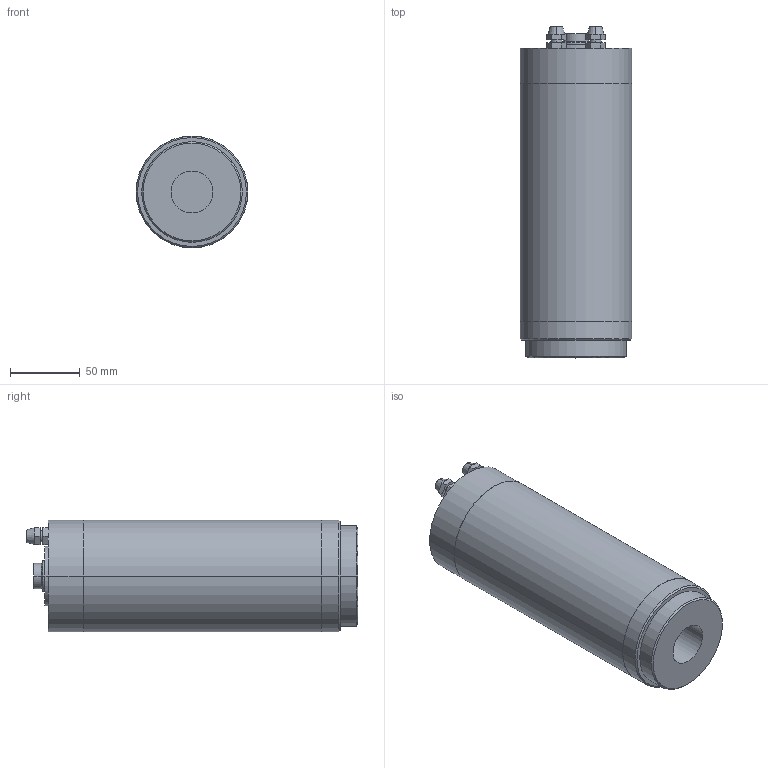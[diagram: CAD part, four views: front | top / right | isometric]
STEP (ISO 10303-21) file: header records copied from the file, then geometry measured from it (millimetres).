
FILE_DESCRIPTION (( 'STEP AP214' ), '1' );
FILE_NAME ('Pos.104 Spindel.STEP', '2017-03-12T10:05:14', ( 'C.Loibl@hotmail.com' ), ( '' ), 'SwSTEP 2.0', 'SolidWorks 2015', '' );
FILE_SCHEMA (( 'AUTOMOTIVE_DESIGN' ));
Length unit declared in the file: millimetre
Products named in the file (1): Pos.104 Spindel
Bounding box: 80 x 237.4 x 80 mm (x, y, z)
Volume: 1084147.8 mm3; surface area: 72380.9 mm2
Topology: 1 solids, 1 shells, 178 faces, 394 edges, 246 vertices
Faces by surface type: plane 114, cylinder 42, cone 22
Entity records: 6042 total; most frequent: DIRECTION 878, CARTESIAN_POINT 819, ORIENTED_EDGE 788, EDGE_CURVE 394, AXIS2_PLACEMENT_3D 305, VECTOR 268, LINE 268, VERTEX_POINT 246
